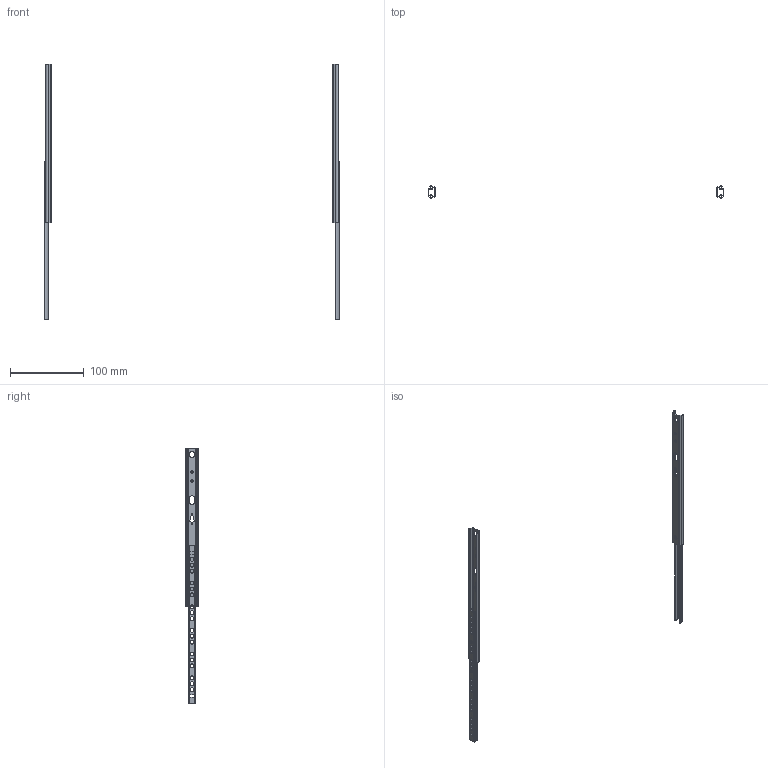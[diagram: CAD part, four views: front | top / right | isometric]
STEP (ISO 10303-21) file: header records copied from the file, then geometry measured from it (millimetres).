
FILE_DESCRIPTION(/* description */ (''),/* implementation_level */ '2;1');
FILE_NAME(/* name */ 'D:\$Workingspace\Designs\Katalog\Cadsoft\GTV Prowadnice\Prowadnice GTV_bryły 3D\PK-0-H17-214_wysunieta.stp',/* time_stamp */ '2016-11-22T08:49:04+01:00',/* author */ ('tomaszw'),/* organization */ (''),/* preprocessor_version */ 'ST-DEVELOPER v16.1',/* originating_system */ 'Autodesk Inventor 2016',/* authorisation */ '');
FILE_SCHEMA (('AUTOMOTIVE_DESIGN { 1 0 10303 214 3 1 1 }'));
Length unit declared in the file: millimetre
Products named in the file (3): PK-0-H17_1-214; PK-0-H17_2-214; PK-0-H17
Assembly tree (4 placements, depth 2):
  PK-0-H17
    PK-0-H17_1-214  x2
    PK-0-H17_2-214  x2
Bounding box: 400 x 16.69 x 345 mm (x, y, z)
Volume: 15093.6 mm3; surface area: 39997.3 mm2
Topology: 4 solids, 4 shells, 160 faces, 460 edges, 308 vertices
Faces by surface type: cylinder 96, plane 64
Full cylindrical faces by diameter (mm): 3.242 x4, 5 x2, 5.2 x36, 8 x2
Entity records: 2831 total; most frequent: DIRECTION 476, CARTESIAN_POINT 445, ORIENTED_EDGE 412, EDGE_CURVE 206, AXIS2_PLACEMENT_3D 183, EDGE_LOOP 154, VERTEX_POINT 152, LINE 110
